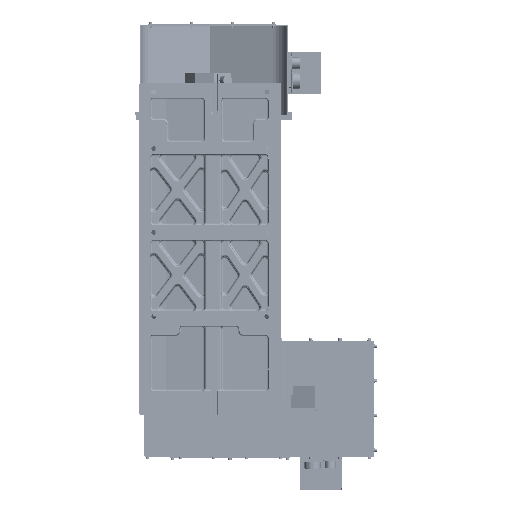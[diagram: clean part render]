
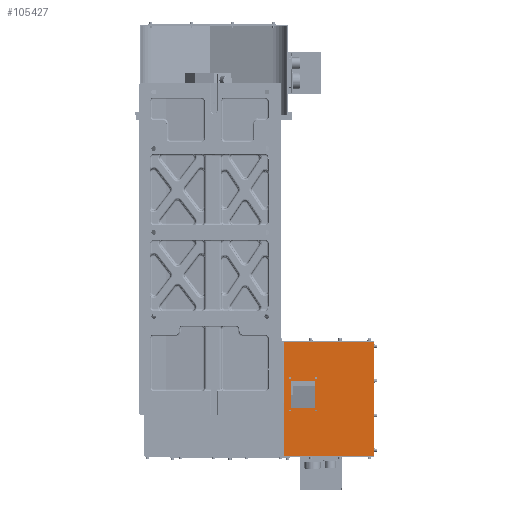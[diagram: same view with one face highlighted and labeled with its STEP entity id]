
A CAD part, front view. The second image highlights one B-rep face of the part: STEP entity #105427.
In plain terms, the highlighted planar face has unit normal (0, -1, 0).
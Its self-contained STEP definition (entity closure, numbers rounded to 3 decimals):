
#224 = CARTESIAN_POINT ( 'NONE',  ( 288., -223., -101. ) ) ;
#350 = EDGE_CURVE ( 'NONE', #7267, #15037, #67349, .T. ) ;
#1408 = DIRECTION ( 'NONE',  ( 0., 0., -1. ) ) ;
#2333 = DIRECTION ( 'NONE',  ( 0., 1., 0. ) ) ;
#4100 = AXIS2_PLACEMENT_3D ( 'NONE', #28039, #2333, #60886 ) ;
#4527 = ORIENTED_EDGE ( 'NONE', *, *, #17381, .T. ) ;
#4689 = CARTESIAN_POINT ( 'NONE',  ( 290., -223., -21.6 ) ) ;
#5787 = CARTESIAN_POINT ( 'NONE',  ( 203.3, -223., 81. ) ) ;
#6650 = VECTOR ( 'NONE', #64171, 1000. ) ;
#7267 = VERTEX_POINT ( 'NONE', #42010 ) ;
#7939 = CARTESIAN_POINT ( 'NONE',  ( 221., -223., -101. ) ) ;
#9203 = EDGE_LOOP ( 'NONE', ( #32122, #20833, #51926, #27279 ) ) ;
#10899 = CARTESIAN_POINT ( 'NONE',  ( 290., -223., -110.6 ) ) ;
#11288 = EDGE_LOOP ( 'NONE', ( #77289, #36151 ) ) ;
#11784 = DIRECTION ( 'NONE',  ( 0., 0., -1. ) ) ;
#12016 = CARTESIAN_POINT ( 'NONE',  ( 290., -223., -108. ) ) ;
#12152 = DIRECTION ( 'NONE',  ( 0., 1., 0. ) ) ;
#12292 = VERTEX_POINT ( 'NONE', #64626 ) ;
#12586 = DIRECTION ( 'NONE',  ( 0., 0., -1. ) ) ;
#14856 = EDGE_CURVE ( 'NONE', #69950, #73487, #33275, .T. ) ;
#15037 = VERTEX_POINT ( 'NONE', #62249 ) ;
#16054 = CIRCLE ( 'NONE', #77241, 2.6 ) ;
#16493 = CARTESIAN_POINT ( 'NONE',  ( 219., -223., -19. ) ) ;
#17381 = EDGE_CURVE ( 'NONE', #68436, #80815, #101703, .T. ) ;
#19898 = VERTEX_POINT ( 'NONE', #7939 ) ;
#20386 = FACE_BOUND ( 'NONE', #35366, .T. ) ;
#20656 = VERTEX_POINT ( 'NONE', #25180 ) ;
#20833 = ORIENTED_EDGE ( 'NONE', *, *, #47079, .T. ) ;
#22349 = DIRECTION ( 'NONE',  ( -1., 0., 0. ) ) ;
#22795 = VERTEX_POINT ( 'NONE', #88925 ) ;
#24511 = DIRECTION ( 'NONE',  ( 0., 0., -1. ) ) ;
#24565 = DIRECTION ( 'NONE',  ( 1., 0., 0. ) ) ;
#25180 = CARTESIAN_POINT ( 'NONE',  ( 221., -223., -26. ) ) ;
#25235 = ORIENTED_EDGE ( 'NONE', *, *, #56619, .T. ) ;
#25946 = CARTESIAN_POINT ( 'NONE',  ( 447.7, -223., 81. ) ) ;
#26166 = EDGE_CURVE ( 'NONE', #80815, #68436, #80936, .T. ) ;
#26210 = DIRECTION ( 'NONE',  ( 0., 1., 0. ) ) ;
#26874 = ORIENTED_EDGE ( 'NONE', *, *, #26166, .T. ) ;
#27093 = LINE ( 'NONE', #44060, #44096 ) ;
#27279 = ORIENTED_EDGE ( 'NONE', *, *, #69236, .T. ) ;
#28039 = CARTESIAN_POINT ( 'NONE',  ( 290., -223., -19. ) ) ;
#29662 = FACE_BOUND ( 'NONE', #40038, .T. ) ;
#30625 = AXIS2_PLACEMENT_3D ( 'NONE', #16493, #82225, #41121 ) ;
#32122 = ORIENTED_EDGE ( 'NONE', *, *, #57723, .T. ) ;
#33275 = LINE ( 'NONE', #100058, #36248 ) ;
#34741 = CIRCLE ( 'NONE', #57482, 2.6 ) ;
#35199 = VERTEX_POINT ( 'NONE', #45348 ) ;
#35366 = EDGE_LOOP ( 'NONE', ( #89929, #25235 ) ) ;
#35454 = ORIENTED_EDGE ( 'NONE', *, *, #350, .F. ) ;
#36151 = ORIENTED_EDGE ( 'NONE', *, *, #99881, .T. ) ;
#36248 = VECTOR ( 'NONE', #90806, 1000. ) ;
#36265 = PLANE ( 'NONE',  #106365 ) ;
#38009 = VERTEX_POINT ( 'NONE', #4689 ) ;
#38115 = DIRECTION ( 'NONE',  ( 1., 0., 0. ) ) ;
#38424 = FACE_BOUND ( 'NONE', #11288, .T. ) ;
#39880 = CIRCLE ( 'NONE', #60881, 2.6 ) ;
#40038 = EDGE_LOOP ( 'NONE', ( #4527, #26874 ) ) ;
#41121 = DIRECTION ( 'NONE',  ( 0., 0., -1. ) ) ;
#42010 = CARTESIAN_POINT ( 'NONE',  ( 201., -223., -232.7 ) ) ;
#42272 = VECTOR ( 'NONE', #56995, 1000. ) ;
#42886 = CIRCLE ( 'NONE', #104068, 2.6 ) ;
#44060 = CARTESIAN_POINT ( 'NONE',  ( 288., -223., -26. ) ) ;
#44096 = VECTOR ( 'NONE', #1408, 1000. ) ;
#44990 = CARTESIAN_POINT ( 'NONE',  ( 447.7, -223., -232.7 ) ) ;
#45348 = CARTESIAN_POINT ( 'NONE',  ( 290., -223., -16.4 ) ) ;
#45539 = DIRECTION ( 'NONE',  ( 0., 0., -1. ) ) ;
#45981 = DIRECTION ( 'NONE',  ( 0., 1., 0. ) ) ;
#46166 = EDGE_CURVE ( 'NONE', #85331, #22795, #42886, .T. ) ;
#46580 = VECTOR ( 'NONE', #24565, 1000. ) ;
#47079 = EDGE_CURVE ( 'NONE', #20656, #12292, #108311, .T. ) ;
#47360 = DIRECTION ( 'NONE',  ( 0., 0., 1. ) ) ;
#47851 = CARTESIAN_POINT ( 'NONE',  ( 219., -223., -21.6 ) ) ;
#48954 = CARTESIAN_POINT ( 'NONE',  ( 221., -223., -26. ) ) ;
#49331 = CARTESIAN_POINT ( 'NONE',  ( 221., -223., -101. ) ) ;
#51926 = ORIENTED_EDGE ( 'NONE', *, *, #87122, .T. ) ;
#51944 = EDGE_CURVE ( 'NONE', #38009, #35199, #84749, .T. ) ;
#52937 = AXIS2_PLACEMENT_3D ( 'NONE', #88156, #45981, #12586 ) ;
#53716 = ORIENTED_EDGE ( 'NONE', *, *, #75552, .F. ) ;
#54630 = LINE ( 'NONE', #104980, #69735 ) ;
#54640 = CARTESIAN_POINT ( 'NONE',  ( 290., -223., -108. ) ) ;
#54694 = DIRECTION ( 'NONE',  ( 0., 1., 0. ) ) ;
#55242 = DIRECTION ( 'NONE',  ( 0., 0., -1. ) ) ;
#56619 = EDGE_CURVE ( 'NONE', #22795, #85331, #39880, .T. ) ;
#56995 = DIRECTION ( 'NONE',  ( 0., 0., 1. ) ) ;
#57357 = VECTOR ( 'NONE', #47360, 1000. ) ;
#57482 = AXIS2_PLACEMENT_3D ( 'NONE', #79110, #86801, #11784 ) ;
#57723 = EDGE_CURVE ( 'NONE', #19898, #20656, #105375, .T. ) ;
#57891 = CARTESIAN_POINT ( 'NONE',  ( 290., -223., -19. ) ) ;
#58786 = EDGE_CURVE ( 'NONE', #73487, #7267, #54630, .T. ) ;
#60881 = AXIS2_PLACEMENT_3D ( 'NONE', #12016, #54694, #55242 ) ;
#60886 = DIRECTION ( 'NONE',  ( 0., 0., -1. ) ) ;
#61451 = LINE ( 'NONE', #49331, #6650 ) ;
#61773 = DIRECTION ( 'NONE',  ( 0., 0., -1. ) ) ;
#62249 = CARTESIAN_POINT ( 'NONE',  ( 201., -223., 81. ) ) ;
#63051 = FACE_OUTER_BOUND ( 'NONE', #68990, .T. ) ;
#64171 = DIRECTION ( 'NONE',  ( -1., 0., 0. ) ) ;
#64626 = CARTESIAN_POINT ( 'NONE',  ( 288., -223., -26. ) ) ;
#66160 = CARTESIAN_POINT ( 'NONE',  ( 221., -223., -26. ) ) ;
#67349 = LINE ( 'NONE', #89867, #42272 ) ;
#67815 = CARTESIAN_POINT ( 'NONE',  ( 219., -223., -108. ) ) ;
#68436 = VERTEX_POINT ( 'NONE', #83012 ) ;
#68990 = EDGE_LOOP ( 'NONE', ( #53716, #35454, #79747, #82778 ) ) ;
#69236 = EDGE_CURVE ( 'NONE', #89198, #19898, #61451, .T. ) ;
#69659 = CARTESIAN_POINT ( 'NONE',  ( 324.35, -223., -75.85 ) ) ;
#69735 = VECTOR ( 'NONE', #22349, 1000. ) ;
#69950 = VERTEX_POINT ( 'NONE', #25946 ) ;
#70290 = CARTESIAN_POINT ( 'NONE',  ( 219., -223., -105.4 ) ) ;
#73487 = VERTEX_POINT ( 'NONE', #44990 ) ;
#75552 = EDGE_CURVE ( 'NONE', #15037, #69950, #91023, .T. ) ;
#75865 = EDGE_LOOP ( 'NONE', ( #102563, #100076 ) ) ;
#77124 = VECTOR ( 'NONE', #38115, 1000. ) ;
#77241 = AXIS2_PLACEMENT_3D ( 'NONE', #57891, #83094, #24511 ) ;
#77289 = ORIENTED_EDGE ( 'NONE', *, *, #104496, .T. ) ;
#77826 = CIRCLE ( 'NONE', #30625, 2.6 ) ;
#79110 = CARTESIAN_POINT ( 'NONE',  ( 219., -223., -19. ) ) ;
#79747 = ORIENTED_EDGE ( 'NONE', *, *, #58786, .F. ) ;
#80815 = VERTEX_POINT ( 'NONE', #70290 ) ;
#80936 = CIRCLE ( 'NONE', #52937, 2.6 ) ;
#82225 = DIRECTION ( 'NONE',  ( 0., 1., 0. ) ) ;
#82778 = ORIENTED_EDGE ( 'NONE', *, *, #14856, .F. ) ;
#83012 = CARTESIAN_POINT ( 'NONE',  ( 219., -223., -110.6 ) ) ;
#83094 = DIRECTION ( 'NONE',  ( 0., 1., 0. ) ) ;
#84228 = AXIS2_PLACEMENT_3D ( 'NONE', #67815, #26210, #94610 ) ;
#84749 = CIRCLE ( 'NONE', #4100, 2.6 ) ;
#85331 = VERTEX_POINT ( 'NONE', #10899 ) ;
#85539 = EDGE_CURVE ( 'NONE', #35199, #38009, #16054, .T. ) ;
#86801 = DIRECTION ( 'NONE',  ( 0., 1., 0. ) ) ;
#86978 = DIRECTION ( 'NONE',  ( 0., 1., 0. ) ) ;
#87122 = EDGE_CURVE ( 'NONE', #12292, #89198, #27093, .T. ) ;
#87466 = VERTEX_POINT ( 'NONE', #47851 ) ;
#88156 = CARTESIAN_POINT ( 'NONE',  ( 219., -223., -108. ) ) ;
#88925 = CARTESIAN_POINT ( 'NONE',  ( 290., -223., -105.4 ) ) ;
#89198 = VERTEX_POINT ( 'NONE', #224 ) ;
#89867 = CARTESIAN_POINT ( 'NONE',  ( 201., -223., 78.7 ) ) ;
#89929 = ORIENTED_EDGE ( 'NONE', *, *, #46166, .T. ) ;
#90806 = DIRECTION ( 'NONE',  ( 0., 0., -1. ) ) ;
#91023 = LINE ( 'NONE', #5787, #77124 ) ;
#94610 = DIRECTION ( 'NONE',  ( 0., 0., -1. ) ) ;
#94823 = FACE_BOUND ( 'NONE', #75865, .T. ) ;
#98412 = VERTEX_POINT ( 'NONE', #101661 ) ;
#99881 = EDGE_CURVE ( 'NONE', #98412, #87466, #34741, .T. ) ;
#100058 = CARTESIAN_POINT ( 'NONE',  ( 447.7, -223., 78.7 ) ) ;
#100076 = ORIENTED_EDGE ( 'NONE', *, *, #85539, .T. ) ;
#101661 = CARTESIAN_POINT ( 'NONE',  ( 219., -223., -16.4 ) ) ;
#101703 = CIRCLE ( 'NONE', #84228, 2.6 ) ;
#102563 = ORIENTED_EDGE ( 'NONE', *, *, #51944, .T. ) ;
#104068 = AXIS2_PLACEMENT_3D ( 'NONE', #54640, #86978, #61773 ) ;
#104496 = EDGE_CURVE ( 'NONE', #87466, #98412, #77826, .T. ) ;
#104980 = CARTESIAN_POINT ( 'NONE',  ( 203.3, -223., -232.7 ) ) ;
#105193 = FACE_BOUND ( 'NONE', #9203, .T. ) ;
#105375 = LINE ( 'NONE', #48954, #57357 ) ;
#105427 = ADVANCED_FACE ( 'NONE', ( #38424, #94823, #29662, #20386, #105193, #63051 ), #36265, .F. ) ;
#106365 = AXIS2_PLACEMENT_3D ( 'NONE', #69659, #12152, #45539 ) ;
#108311 = LINE ( 'NONE', #66160, #46580 ) ;
